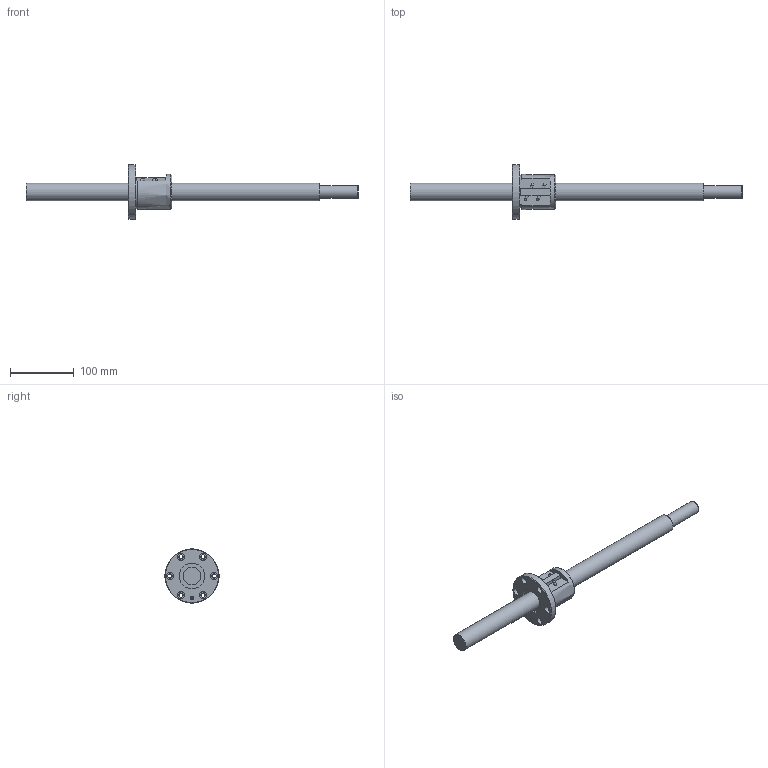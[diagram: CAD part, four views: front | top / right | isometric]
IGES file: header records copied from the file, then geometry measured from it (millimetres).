
Start section: Data from Parasolid IGES Translator 26.0.171, Copyright(c) 2006 Siemens PLM Software. All Rights Reserved.
Global section: file name: BNF2806-5RRG1+520LC5A(00).igs; native system: By Siemens PLM Incorporated; preprocessor: XPlus GENERIC/IGES 26.0.171; author: Noname; organization: Noname; date: 20240715.074545; units: millimetre
Bounding box: 520 x 85 x 85 mm (x, y, z)
Surface area: 77787.7 mm2 (no closed solid volume)
Topology: 0 solids, 0 shells, 71 faces, 356 edges, 323 vertices
Faces by surface type: revolution 47, extrusion 24
